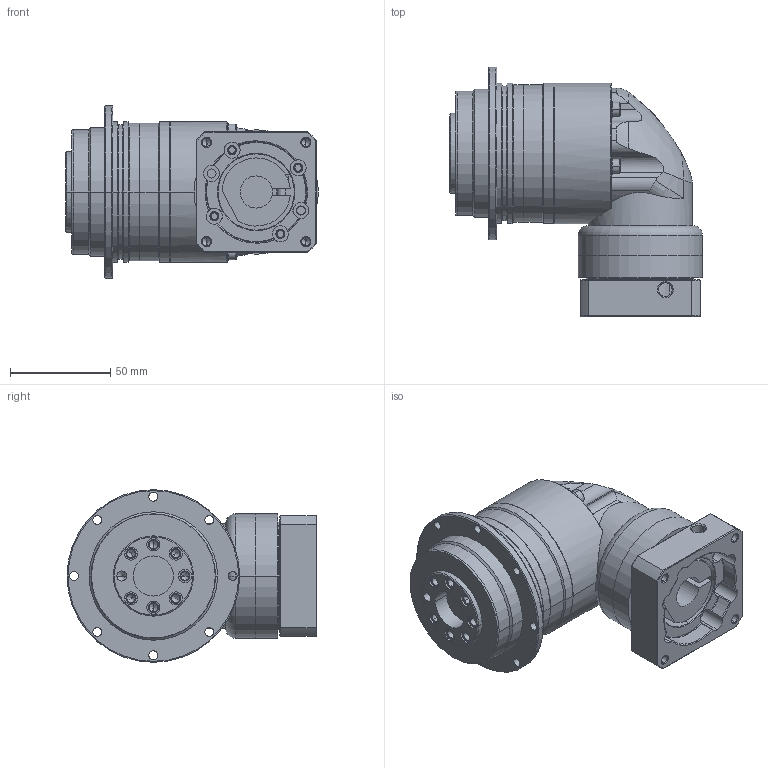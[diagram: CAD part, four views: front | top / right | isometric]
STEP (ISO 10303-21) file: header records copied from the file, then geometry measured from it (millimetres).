
FILE_DESCRIPTION((''),'2;1');
FILE_NAME('ADR0641-P0403200503_ASM','2008-08-29T',('d00080'),(''),'PRO/ENGINEER BY PARAMETRIC TECHNOLOGY CORPORATION, 2006170','PRO/ENGINEER BY PARAMETRIC TECHNOLOGY CORPORATION, 2006170','');
FILE_SCHEMA(('CONFIG_CONTROL_DESIGN'));
Length unit declared in the file: millimetre
Products named in the file (11): AD064-1; P1306200001; 220110417; ADR-PLATE-2_ASM; P1002200001; 233100002; 220100509; HOUSING-SET-2_ASM; P1305200001; P0403200503; ADR0641-P0403200503_ASM
Assembly tree (23 placements, depth 3):
  ADR0641-P0403200503_ASM
    AD064-1
    ADR-PLATE-2_ASM
      P1306200001
      220110417  x8
    HOUSING-SET-2_ASM
      P1002200001
      233100002  x4
      220100509  x4
    P1305200001
    P0403200503
Bounding box: 126 x 124.5 x 86 mm (x, y, z)
Volume: 459052 mm3; surface area: 99914.6 mm2
Topology: 23 solids, 59 shells, 1061 faces, 2472 edges, 1513 vertices
Faces by surface type: cylinder 478, plane 315, cone 184, torus 65, bspline 19
Entity records: 22915 total; most frequent: CARTESIAN_POINT 5196, DIRECTION 4023, ORIENTED_EDGE 3284, EDGE_CURVE 1714, AXIS2_PLACEMENT_3D 1704, VERTEX_POINT 1109, CIRCLE 938, EDGE_LOOP 897
